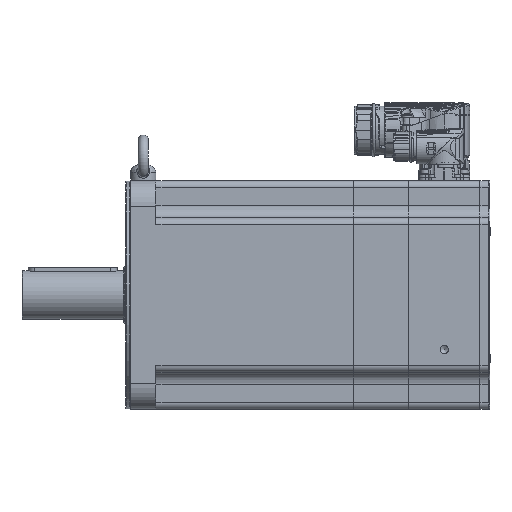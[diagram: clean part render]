
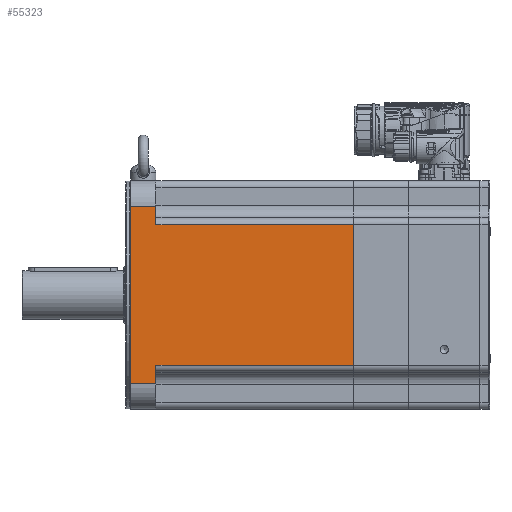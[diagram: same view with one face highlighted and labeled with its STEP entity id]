
A CAD part, left-side view. The second image highlights one B-rep face of the part: STEP entity #55323.
In plain terms, the highlighted planar face has unit normal (-1, 0, 0) as drawn and (1, 0, 0) by its records, which use the part's own axes.
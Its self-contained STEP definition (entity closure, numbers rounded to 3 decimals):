
#4996=PLANE('',#81358);
#21362=ORIENTED_EDGE('',*,*,#30475,.F.);
#21363=ORIENTED_EDGE('',*,*,#30547,.T.);
#21364=ORIENTED_EDGE('',*,*,#30513,.F.);
#21365=ORIENTED_EDGE('',*,*,#30548,.T.);
#21366=ORIENTED_EDGE('',*,*,#30549,.F.);
#21367=ORIENTED_EDGE('',*,*,#30550,.T.);
#21368=ORIENTED_EDGE('',*,*,#30535,.F.);
#21369=ORIENTED_EDGE('',*,*,#30551,.T.);
#30475=EDGE_CURVE('',#36185,#36186,#39704,.T.);
#30513=EDGE_CURVE('',#36223,#36224,#39718,.T.);
#30535=EDGE_CURVE('',#36245,#36246,#39725,.T.);
#30547=EDGE_CURVE('',#36185,#36224,#39733,.F.);
#30548=EDGE_CURVE('',#36223,#36253,#39734,.T.);
#30549=EDGE_CURVE('',#36254,#36253,#39735,.T.);
#30550=EDGE_CURVE('',#36254,#36246,#39736,.F.);
#30551=EDGE_CURVE('',#36245,#36186,#39737,.T.);
#36185=VERTEX_POINT('',#155257);
#36186=VERTEX_POINT('',#155259);
#36223=VERTEX_POINT('',#155344);
#36224=VERTEX_POINT('',#155346);
#36245=VERTEX_POINT('',#155397);
#36246=VERTEX_POINT('',#155398);
#36253=VERTEX_POINT('',#155422);
#36254=VERTEX_POINT('',#155424);
#39704=LINE('',#155258,#42794);
#39718=LINE('',#155345,#42808);
#39725=LINE('',#155396,#42815);
#39733=LINE('',#155420,#42823);
#39734=LINE('',#155421,#42824);
#39735=LINE('',#155423,#42825);
#39736=LINE('',#155425,#42826);
#39737=LINE('',#155426,#42827);
#42794=VECTOR('',#94176,1000.);
#42808=VECTOR('',#94260,1000.);
#42815=VECTOR('',#94313,1000.);
#42823=VECTOR('',#94337,1000.);
#42824=VECTOR('',#94338,1000.);
#42825=VECTOR('',#94339,1000.);
#42826=VECTOR('',#94340,1000.);
#42827=VECTOR('',#94341,1000.);
#46673=EDGE_LOOP('',(#21362,#21363,#21364,#21365,#21366,#21367,#21368,#21369));
#50897=FACE_BOUND('',#46673,.T.);
#55323=ADVANCED_FACE('',(#50897),#4996,.T.);
#81358=AXIS2_PLACEMENT_3D('',#155419,#94335,#94336);
#94176=DIRECTION('',(0.,0.,-1.));
#94260=DIRECTION('',(0.,0.,-1.));
#94313=DIRECTION('',(0.,0.,-1.));
#94335=DIRECTION('',(1.,0.,0.));
#94336=DIRECTION('',(0.,1.,0.));
#94337=DIRECTION('',(0.,1.,0.));
#94338=DIRECTION('',(0.,-1.,0.));
#94339=DIRECTION('',(0.,0.,1.));
#94340=DIRECTION('',(0.,-1.,0.));
#94341=DIRECTION('',(0.,1.,0.));
#155257=CARTESIAN_POINT('',(90.,176.8,55.2));
#155258=CARTESIAN_POINT('',(90.,176.8,-90.));
#155259=CARTESIAN_POINT('',(90.,176.8,-55.2));
#155344=CARTESIAN_POINT('',(90.,21.3,70.));
#155345=CARTESIAN_POINT('',(90.,21.3,-90.));
#155346=CARTESIAN_POINT('',(90.,21.3,55.2));
#155396=CARTESIAN_POINT('',(90.,21.3,-90.));
#155397=CARTESIAN_POINT('',(90.,21.3,-55.2));
#155398=CARTESIAN_POINT('',(90.,21.3,-70.));
#155419=CARTESIAN_POINT('',(90.,491.763,-90.));
#155420=CARTESIAN_POINT('',(90.,491.763,55.2));
#155421=CARTESIAN_POINT('',(90.,491.763,70.));
#155422=CARTESIAN_POINT('',(90.,1.3,70.));
#155423=CARTESIAN_POINT('',(90.,1.3,-90.));
#155424=CARTESIAN_POINT('',(90.,1.3,-70.));
#155425=CARTESIAN_POINT('',(90.,491.763,-70.));
#155426=CARTESIAN_POINT('',(90.,491.763,-55.2));
